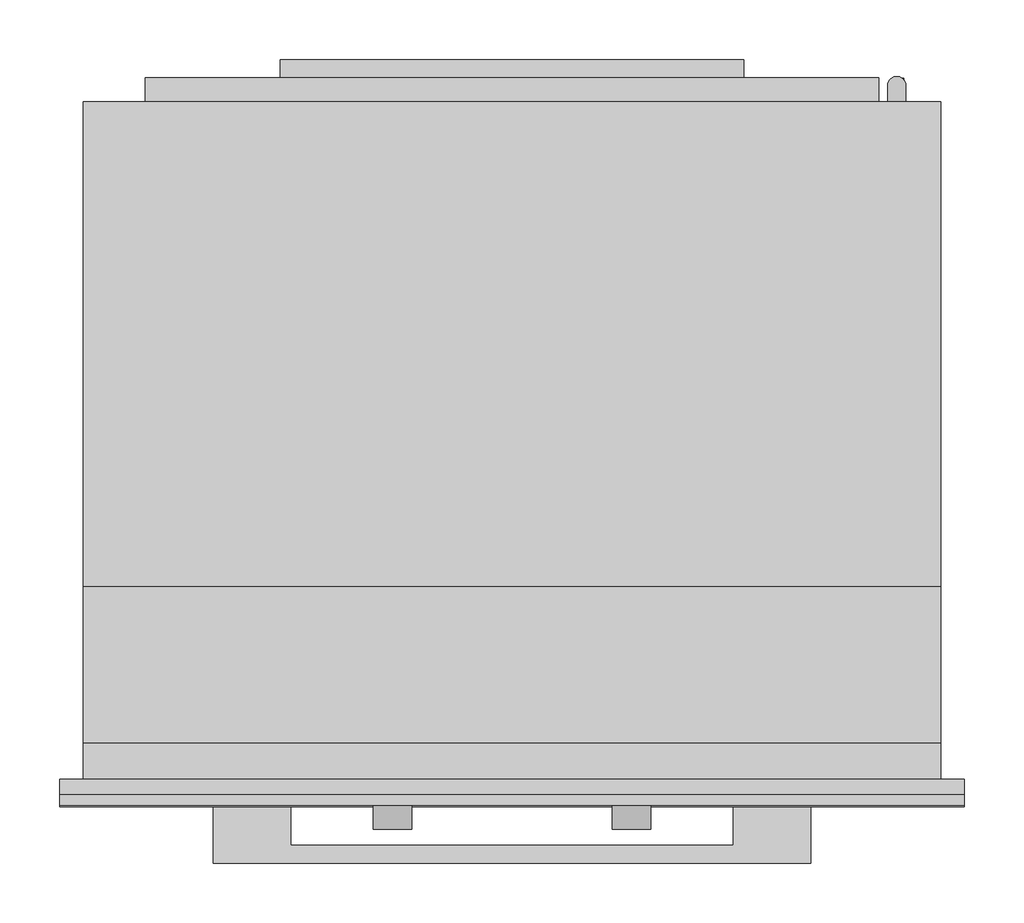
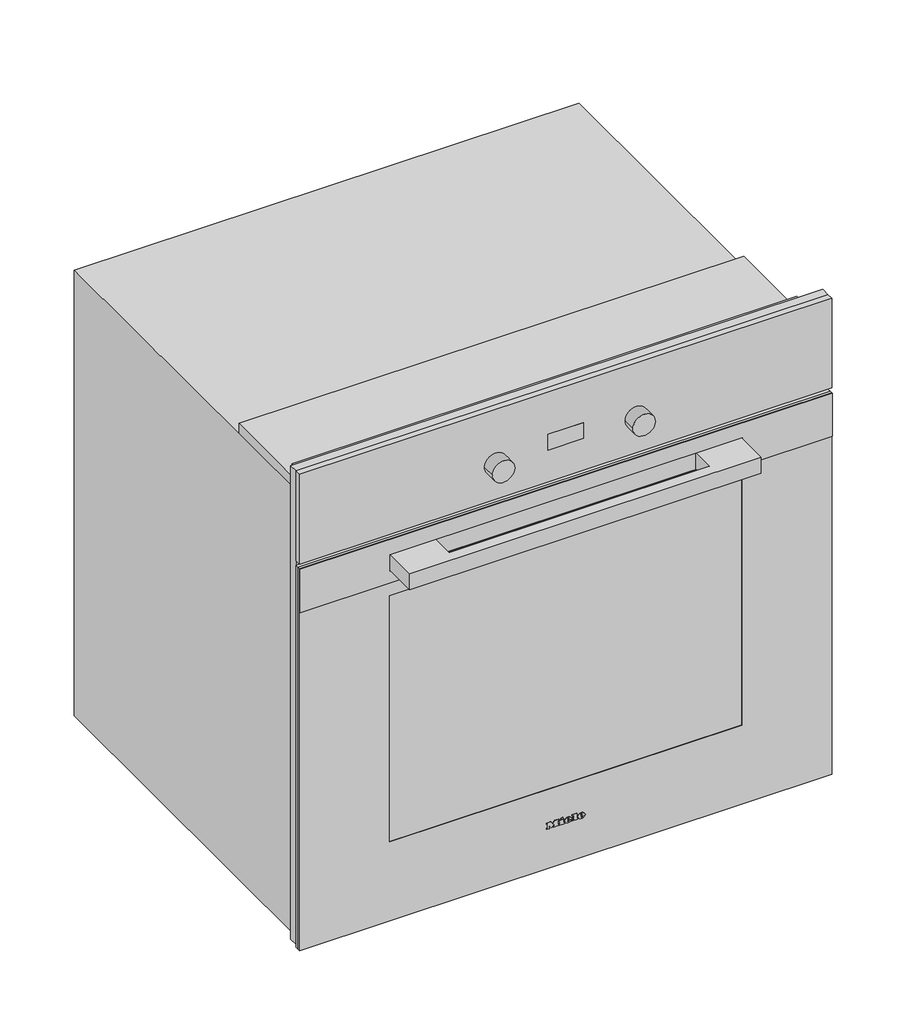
# Not in any storey: 1 proxy.
"""IFC4 building model written with IfcOpenShell, lengths in millimetres."""

from ifc_helpers import new_model, si_unit, origin, place, context, project, spatial, transform, mapped, element, save
from components import specialty_equipment_479a0580

model = new_model("IFC4")

# Units and contexts
model_context = context("Model", 3, world=origin())
ifc_project = project(units=[si_unit("LENGTHUNIT", "METRE", prefix="MILLI")], contexts=[model_context])

# Site, building
site = spatial("IfcSite", under=ifc_project)
building = spatial("IfcBuilding", under=site)

# Proxy
placement = place(None, origin())
specialty_equipment_shape = specialty_equipment_479a0580(model_context)
element("IfcBuildingElementProxy", 1, Name="12139510_CDN_H2880BP_EDST-CLST : 22288045_CDN_12139510_H2880BP_EDST-CLST", ObjectType="12139510_CDN_H2880BP_EDST-CLST : 22288045_CDN_12139510_H2880BP_EDST-CLST", at=placement, inside=building, context=model_context, shape_type="MappedRepresentation", body=[
    mapped(specialty_equipment_shape, transform((0.0, 0.0, 0.0), x_axis=(1.0, 0.0, 0.0), y_axis=(0.0, 1.0, 0.0), z_axis=(0.0, 0.0, 1.0))),
])

save(model, "model.ifc")
